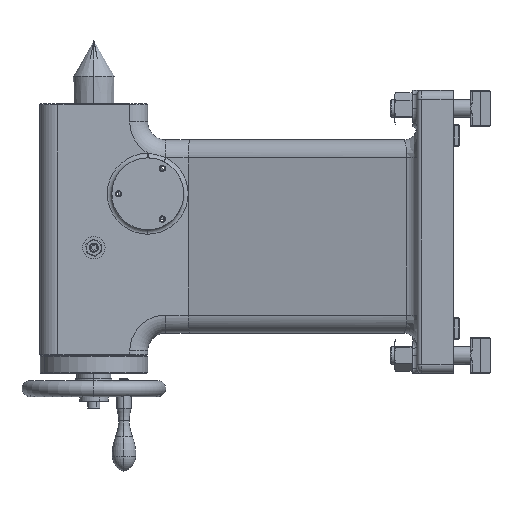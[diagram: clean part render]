
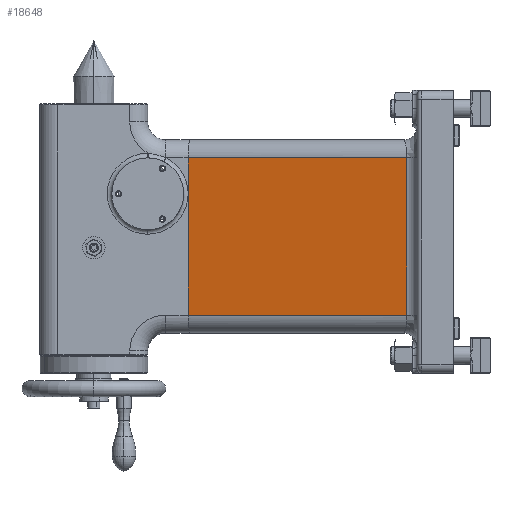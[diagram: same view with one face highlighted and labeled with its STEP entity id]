
A CAD part, left-side view. The second image highlights one B-rep face of the part: STEP entity #18648.
In plain terms, the highlighted planar face has unit normal (-0.976, 0.22, 0).
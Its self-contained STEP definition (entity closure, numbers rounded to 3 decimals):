
#1532 = LINE ( 'NONE', #8977, #12649 ) ;
#1792 = DIRECTION ( 'NONE',  ( -0.22, -0.976, 0. ) ) ;
#3153 = CARTESIAN_POINT ( 'NONE',  ( -62.5, -105., -20. ) ) ;
#3926 = VECTOR ( 'NONE', #22774, 1000. ) ;
#4584 = LINE ( 'NONE', #17353, #10741 ) ;
#4607 = DIRECTION ( 'NONE',  ( 0., 0., 1. ) ) ;
#4641 = VECTOR ( 'NONE', #4607, 1000. ) ;
#4813 = DIRECTION ( 'NONE',  ( 0., 0., 1. ) ) ;
#5567 = CARTESIAN_POINT ( 'NONE',  ( -117.362, -348.3, -20. ) ) ;
#6073 = CARTESIAN_POINT ( 'NONE',  ( -62.5, -105., -20. ) ) ;
#6938 = EDGE_CURVE ( 'NONE', #21125, #9811, #13252, .T. ) ;
#7923 = CARTESIAN_POINT ( 'NONE',  ( -62.5, -105., -215. ) ) ;
#8128 = VERTEX_POINT ( 'NONE', #5567 ) ;
#8977 = CARTESIAN_POINT ( 'NONE',  ( -62.5, -105., -215. ) ) ;
#9001 = VECTOR ( 'NONE', #1792, 1000. ) ;
#9010 = VERTEX_POINT ( 'NONE', #19410 ) ;
#9252 = EDGE_LOOP ( 'NONE', ( #11710, #11377, #13480, #17528, #13510 ) ) ;
#9470 = CARTESIAN_POINT ( 'NONE',  ( -62.5, -105., -215. ) ) ;
#9721 = EDGE_CURVE ( 'NONE', #8128, #20475, #12026, .T. ) ;
#9811 = VERTEX_POINT ( 'NONE', #21349 ) ;
#10741 = VECTOR ( 'NONE', #4813, 1000. ) ;
#11140 = LINE ( 'NONE', #17999, #9001 ) ;
#11377 = ORIENTED_EDGE ( 'NONE', *, *, #19123, .T. ) ;
#11710 = ORIENTED_EDGE ( 'NONE', *, *, #23391, .T. ) ;
#12026 = LINE ( 'NONE', #3153, #3926 ) ;
#12649 = VECTOR ( 'NONE', #16189, 1000. ) ;
#13020 = DIRECTION ( 'NONE',  ( -0.22, -0.976, 0. ) ) ;
#13252 = LINE ( 'NONE', #7923, #4641 ) ;
#13370 = PLANE ( 'NONE',  #20030 ) ;
#13480 = ORIENTED_EDGE ( 'NONE', *, *, #9721, .T. ) ;
#13510 = ORIENTED_EDGE ( 'NONE', *, *, #6938, .F. ) ;
#14305 = CARTESIAN_POINT ( 'NONE',  ( -62.5, -105., -195. ) ) ;
#14803 = FACE_OUTER_BOUND ( 'NONE', #9252, .T. ) ;
#16189 = DIRECTION ( 'NONE',  ( 0., 0., 1. ) ) ;
#17353 = CARTESIAN_POINT ( 'NONE',  ( -117.362, -348.3, -20. ) ) ;
#17528 = ORIENTED_EDGE ( 'NONE', *, *, #20098, .F. ) ;
#17999 = CARTESIAN_POINT ( 'NONE',  ( -120., -360., -195. ) ) ;
#18648 = ADVANCED_FACE ( 'NONE', ( #14803 ), #13370, .T. ) ;
#18797 = DIRECTION ( 'NONE',  ( -0.976, 0.22, 0. ) ) ;
#19123 = EDGE_CURVE ( 'NONE', #9010, #8128, #4584, .T. ) ;
#19410 = CARTESIAN_POINT ( 'NONE',  ( -117.362, -348.3, -195. ) ) ;
#20030 = AXIS2_PLACEMENT_3D ( 'NONE', #9470, #18797, #13020 ) ;
#20098 = EDGE_CURVE ( 'NONE', #9811, #20475, #1532, .T. ) ;
#20475 = VERTEX_POINT ( 'NONE', #6073 ) ;
#21125 = VERTEX_POINT ( 'NONE', #14305 ) ;
#21349 = CARTESIAN_POINT ( 'NONE',  ( -62.5, -105., -60. ) ) ;
#22774 = DIRECTION ( 'NONE',  ( 0.22, 0.976, 0. ) ) ;
#23391 = EDGE_CURVE ( 'NONE', #21125, #9010, #11140, .T. ) ;
